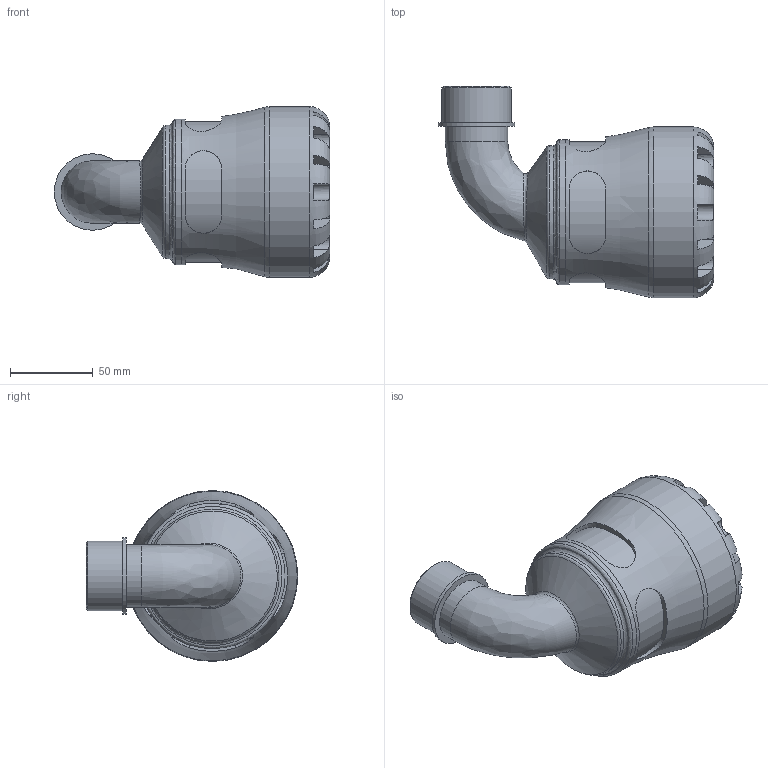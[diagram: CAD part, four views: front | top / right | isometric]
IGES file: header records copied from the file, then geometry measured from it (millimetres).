
Global section: file name: 108500063013_198500063013.ipt; native system: Autodesk Inventor 2015; preprocessor: unknown; author: KIM; date: 20190127.091529; units: millimetre
Bounding box: 166.05 x 127.5 x 103 mm (x, y, z)
Volume: 484401 mm3; surface area: 85158.4 mm2
Topology: 1 solids, 1 shells, 110 faces, 278 edges, 176 vertices
Faces by surface type: plane 61, revolution 26, cylinder 18, bspline 4, cone 1
Full cylindrical faces by diameter (mm): 37.719 x1, 41.91 x1, 46.101 x1, 80.34 x1, 87.55 x1, 103 x1
